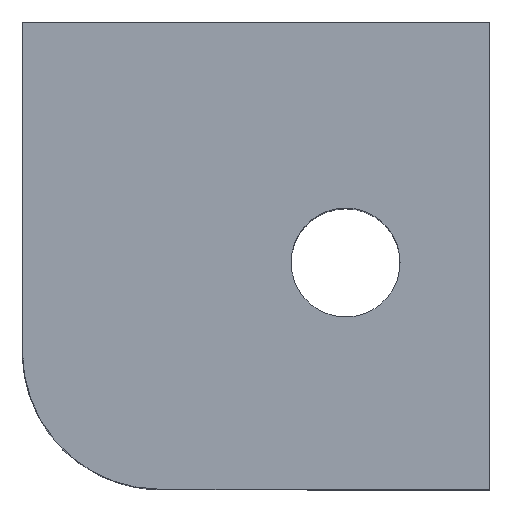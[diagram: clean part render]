
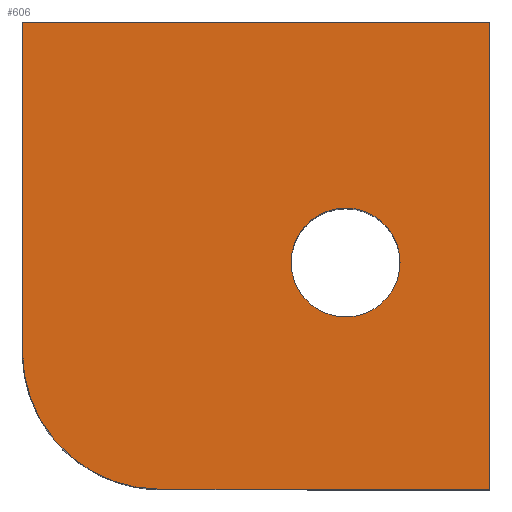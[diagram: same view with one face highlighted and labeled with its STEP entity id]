
A CAD part, top view. The second image highlights one B-rep face of the part: STEP entity #606.
In plain terms, the highlighted planar face has unit normal (0, 0, 1).
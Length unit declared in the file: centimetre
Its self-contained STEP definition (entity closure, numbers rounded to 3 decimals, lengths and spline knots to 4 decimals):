
#15 = DIRECTION ( 'NONE',  ( 0., 0., 1. ) ) ;
#16 = EDGE_CURVE ( 'NONE', #39, #208, #260, .T. ) ;
#32 = CARTESIAN_POINT ( 'NONE',  ( 691.7951, 485.2127, 1000. ) ) ;
#39 = VERTEX_POINT ( 'NONE', #1056 ) ;
#45 = VECTOR ( 'NONE', #1055, 100. ) ;
#67 = PLANE ( 'NONE',  #926 ) ;
#94 = VERTEX_POINT ( 'NONE', #1066 ) ;
#121 = CIRCLE ( 'NONE', #649, 116.6046 ) ;
#131 = VERTEX_POINT ( 'NONE', #290 ) ;
#141 = CARTESIAN_POINT ( 'NONE',  ( 1000., 0., 1000. ) ) ;
#149 = EDGE_CURVE ( 'NONE', #1026, #94, #316, .T. ) ;
#181 = CARTESIAN_POINT ( 'NONE',  ( 294.2567, 294.2567, 1000. ) ) ;
#208 = VERTEX_POINT ( 'NONE', #827 ) ;
#232 = CARTESIAN_POINT ( 'NONE',  ( 0., 1000., 1000. ) ) ;
#235 = DIRECTION ( 'NONE',  ( 1., 0., 0. ) ) ;
#253 = FACE_BOUND ( 'NONE', #529, .T. ) ;
#260 = CIRCLE ( 'NONE', #448, 116.6046 ) ;
#262 = CIRCLE ( 'NONE', #820, 294.2567 ) ;
#278 = EDGE_CURVE ( 'NONE', #700, #422, #580, .T. ) ;
#280 = CARTESIAN_POINT ( 'NONE',  ( 691.7951, 485.2127, 1000. ) ) ;
#290 = CARTESIAN_POINT ( 'NONE',  ( 0., 294.2567, 1000. ) ) ;
#305 = CARTESIAN_POINT ( 'NONE',  ( 0., 0., 1000. ) ) ;
#306 = ORIENTED_EDGE ( 'NONE', *, *, #1034, .T. ) ;
#316 = LINE ( 'NONE', #232, #787 ) ;
#361 = EDGE_CURVE ( 'NONE', #131, #700, #262, .T. ) ;
#396 = CARTESIAN_POINT ( 'NONE',  ( 0., 1000., 1000. ) ) ;
#422 = VERTEX_POINT ( 'NONE', #141 ) ;
#428 = ORIENTED_EDGE ( 'NONE', *, *, #1068, .T. ) ;
#448 = AXIS2_PLACEMENT_3D ( 'NONE', #280, #625, #541 ) ;
#457 = CARTESIAN_POINT ( 'NONE',  ( 1000., 1000., 1000. ) ) ;
#522 = ORIENTED_EDGE ( 'NONE', *, *, #361, .T. ) ;
#529 = EDGE_LOOP ( 'NONE', ( #762, #1025 ) ) ;
#541 = DIRECTION ( 'NONE',  ( -1., 0., 0. ) ) ;
#578 = CARTESIAN_POINT ( 'NONE',  ( 0., 0., 1000. ) ) ;
#580 = LINE ( 'NONE', #305, #731 ) ;
#606 = ADVANCED_FACE ( 'NONE', ( #253, #765 ), #67, .T. ) ;
#624 = LINE ( 'NONE', #457, #45 ) ;
#625 = DIRECTION ( 'NONE',  ( 0., 0., -1. ) ) ;
#638 = DIRECTION ( 'NONE',  ( 0., -1., 0. ) ) ;
#649 = AXIS2_PLACEMENT_3D ( 'NONE', #32, #740, #902 ) ;
#693 = ORIENTED_EDGE ( 'NONE', *, *, #149, .T. ) ;
#700 = VERTEX_POINT ( 'NONE', #1097 ) ;
#731 = VECTOR ( 'NONE', #235, 100. ) ;
#740 = DIRECTION ( 'NONE',  ( 0., 0., -1. ) ) ;
#762 = ORIENTED_EDGE ( 'NONE', *, *, #16, .T. ) ;
#765 = FACE_OUTER_BOUND ( 'NONE', #854, .T. ) ;
#787 = VECTOR ( 'NONE', #1079, 100. ) ;
#819 = LINE ( 'NONE', #396, #859 ) ;
#820 = AXIS2_PLACEMENT_3D ( 'NONE', #181, #15, #965 ) ;
#827 = CARTESIAN_POINT ( 'NONE',  ( 808.3997, 485.2127, 1000. ) ) ;
#854 = EDGE_LOOP ( 'NONE', ( #428, #522, #1027, #306, #693 ) ) ;
#859 = VECTOR ( 'NONE', #638, 100. ) ;
#902 = DIRECTION ( 'NONE',  ( -1., 0., 0. ) ) ;
#926 = AXIS2_PLACEMENT_3D ( 'NONE', #578, #1029, #1022 ) ;
#965 = DIRECTION ( 'NONE',  ( 1., 0., 0. ) ) ;
#973 = CARTESIAN_POINT ( 'NONE',  ( 1000., 1000., 1000. ) ) ;
#1022 = DIRECTION ( 'NONE',  ( 1., 0., 0. ) ) ;
#1025 = ORIENTED_EDGE ( 'NONE', *, *, #1084, .T. ) ;
#1026 = VERTEX_POINT ( 'NONE', #973 ) ;
#1027 = ORIENTED_EDGE ( 'NONE', *, *, #278, .T. ) ;
#1029 = DIRECTION ( 'NONE',  ( 0., 0., 1. ) ) ;
#1034 = EDGE_CURVE ( 'NONE', #422, #1026, #624, .T. ) ;
#1055 = DIRECTION ( 'NONE',  ( 0., 1., 0. ) ) ;
#1056 = CARTESIAN_POINT ( 'NONE',  ( 575.1905, 485.2127, 1000. ) ) ;
#1066 = CARTESIAN_POINT ( 'NONE',  ( 0., 1000., 1000. ) ) ;
#1068 = EDGE_CURVE ( 'NONE', #94, #131, #819, .T. ) ;
#1079 = DIRECTION ( 'NONE',  ( -1., 0., 0. ) ) ;
#1084 = EDGE_CURVE ( 'NONE', #208, #39, #121, .T. ) ;
#1097 = CARTESIAN_POINT ( 'NONE',  ( 294.2567, 0., 1000. ) ) ;
